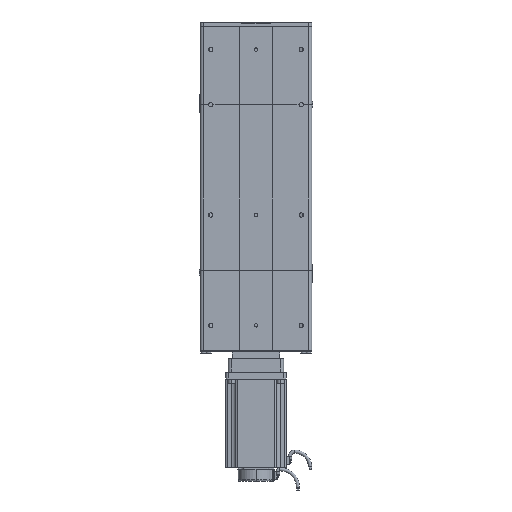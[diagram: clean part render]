
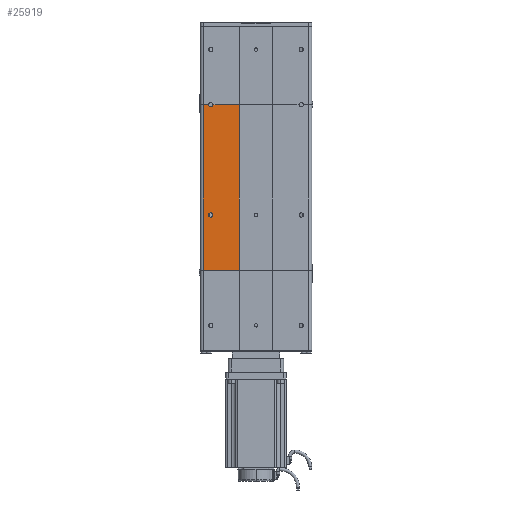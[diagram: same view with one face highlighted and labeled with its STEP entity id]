
A CAD part, front view. The second image highlights one B-rep face of the part: STEP entity #25919.
In plain terms, the highlighted planar face has unit normal (0, -1, 0).
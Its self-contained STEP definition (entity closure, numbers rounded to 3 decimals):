
#3102 = DIRECTION ( 'NONE',  ( 1., 0., 0. ) ) ;
#3103 = VECTOR ( 'NONE', #3102, 1000. ) ;
#3104 = CARTESIAN_POINT ( 'NONE',  ( -96., -34.5, 300. ) ) ;
#3144 = CARTESIAN_POINT ( 'NONE',  ( -78., -34.5, 300. ) ) ;
#3202 = CARTESIAN_POINT ( 'NONE',  ( -30., -34.5, 300. ) ) ;
#3207 = LINE ( 'NONE', #3104, #3103 ) ;
#25549 = EDGE_CURVE ( 'NONE', #25562, #25550, #3207, .T. ) ;
#25550 = VERTEX_POINT ( 'NONE', #3202 ) ;
#25562 = VERTEX_POINT ( 'NONE', #3144 ) ;
#25648 = VERTEX_POINT ( 'NONE', #59566 ) ;
#25650 = EDGE_CURVE ( 'NONE', #25696, #25648, #59579, .T. ) ;
#25696 = VERTEX_POINT ( 'NONE', #59372 ) ;
#25839 = EDGE_CURVE ( 'NONE', #25854, #25857, #52393, .T. ) ;
#25842 = ORIENTED_EDGE ( 'NONE', *, *, #25909, .T. ) ;
#25843 = ORIENTED_EDGE ( 'NONE', *, *, #25650, .F. ) ;
#25845 = EDGE_CURVE ( 'NONE', #25857, #25550, #52058, .T. ) ;
#25849 = ORIENTED_EDGE ( 'NONE', *, *, #25549, .F. ) ;
#25854 = VERTEX_POINT ( 'NONE', #51981 ) ;
#25857 = VERTEX_POINT ( 'NONE', #51971 ) ;
#25892 = ORIENTED_EDGE ( 'NONE', *, *, #25908, .F. ) ;
#25893 = ORIENTED_EDGE ( 'NONE', *, *, #25957, .F. ) ;
#25897 = ORIENTED_EDGE ( 'NONE', *, *, #25845, .T. ) ;
#25906 = ORIENTED_EDGE ( 'NONE', *, *, #25839, .T. ) ;
#25907 = EDGE_LOOP ( 'NONE', ( #25849, #25892, #25893, #25842, #25906, #25897 ) ) ;
#25908 = EDGE_CURVE ( 'NONE', #26058, #25562, #52323, .T. ) ;
#25909 = EDGE_CURVE ( 'NONE', #26112, #25854, #52269, .T. ) ;
#25917 = EDGE_CURVE ( 'NONE', #25648, #25696, #52544, .T. ) ;
#25918 = EDGE_LOOP ( 'NONE', ( #26023, #25843 ) ) ;
#25919 = ADVANCED_FACE ( 'NONE', ( #52526, #52498 ), #52676, .F. ) ;
#25957 = EDGE_CURVE ( 'NONE', #26112, #26058, #52180, .T. ) ;
#26023 = ORIENTED_EDGE ( 'NONE', *, *, #25917, .F. ) ;
#26058 = VERTEX_POINT ( 'NONE', #54214 ) ;
#26112 = VERTEX_POINT ( 'NONE', #55456 ) ;
#51734 = CARTESIAN_POINT ( 'NONE',  ( -96., -34.5, 300. ) ) ;
#51921 = AXIS2_PLACEMENT_3D ( 'NONE', #52318, #52247, #52245 ) ;
#51971 = CARTESIAN_POINT ( 'NONE',  ( -30., -34.5, 0. ) ) ;
#51981 = CARTESIAN_POINT ( 'NONE',  ( -96., -34.5, 0. ) ) ;
#52026 = DIRECTION ( 'NONE',  ( 1., 0., 0. ) ) ;
#52028 = VECTOR ( 'NONE', #52026, 1000. ) ;
#52056 = CARTESIAN_POINT ( 'NONE',  ( -30., -34.5, 0. ) ) ;
#52058 = LINE ( 'NONE', #52056, #52145 ) ;
#52142 = DIRECTION ( 'NONE',  ( 0., 0., 1. ) ) ;
#52145 = VECTOR ( 'NONE', #52142, 1000. ) ;
#52180 = LINE ( 'NONE', #51734, #52978 ) ;
#52218 = DIRECTION ( 'NONE',  ( 0., 0., -1. ) ) ;
#52221 = VECTOR ( 'NONE', #52218, 1000. ) ;
#52245 = DIRECTION ( 'NONE',  ( 1., 0., 0. ) ) ;
#52247 = DIRECTION ( 'NONE',  ( 0., -1., 0. ) ) ;
#52267 = CARTESIAN_POINT ( 'NONE',  ( -96., -34.5, 300. ) ) ;
#52269 = LINE ( 'NONE', #52267, #52221 ) ;
#52318 = CARTESIAN_POINT ( 'NONE',  ( -82., -34.5, 300. ) ) ;
#52323 = CIRCLE ( 'NONE', #51921, 4. ) ;
#52392 = CARTESIAN_POINT ( 'NONE',  ( -96., -34.5, 0. ) ) ;
#52393 = LINE ( 'NONE', #52392, #52028 ) ;
#52498 = FACE_OUTER_BOUND ( 'NONE', #25907, .T. ) ;
#52526 = FACE_BOUND ( 'NONE', #25918, .T. ) ;
#52544 = CIRCLE ( 'NONE', #52642, 4. ) ;
#52560 = DIRECTION ( 'NONE',  ( -1., 0., 0. ) ) ;
#52561 = DIRECTION ( 'NONE',  ( 0., 1., 0. ) ) ;
#52562 = CARTESIAN_POINT ( 'NONE',  ( -96., -34.5, 300. ) ) ;
#52564 = CARTESIAN_POINT ( 'NONE',  ( -82., -34.5, 100. ) ) ;
#52642 = AXIS2_PLACEMENT_3D ( 'NONE', #52564, #52673, #52743 ) ;
#52644 = AXIS2_PLACEMENT_3D ( 'NONE', #52562, #52561, #52560 ) ;
#52673 = DIRECTION ( 'NONE',  ( 0., -1., 0. ) ) ;
#52676 = PLANE ( 'NONE',  #52644 ) ;
#52743 = DIRECTION ( 'NONE',  ( 1., 0., 0. ) ) ;
#52875 = DIRECTION ( 'NONE',  ( 1., 0., 0. ) ) ;
#52978 = VECTOR ( 'NONE', #52875, 1000. ) ;
#54214 = CARTESIAN_POINT ( 'NONE',  ( -86., -34.5, 300. ) ) ;
#55456 = CARTESIAN_POINT ( 'NONE',  ( -96., -34.5, 300. ) ) ;
#59372 = CARTESIAN_POINT ( 'NONE',  ( -86., -34.5, 100. ) ) ;
#59553 = DIRECTION ( 'NONE',  ( 1., 0., 0. ) ) ;
#59555 = DIRECTION ( 'NONE',  ( 0., -1., 0. ) ) ;
#59557 = CARTESIAN_POINT ( 'NONE',  ( -82., -34.5, 100. ) ) ;
#59559 = AXIS2_PLACEMENT_3D ( 'NONE', #59557, #59555, #59553 ) ;
#59566 = CARTESIAN_POINT ( 'NONE',  ( -78., -34.5, 100. ) ) ;
#59579 = CIRCLE ( 'NONE', #59559, 4. ) ;
